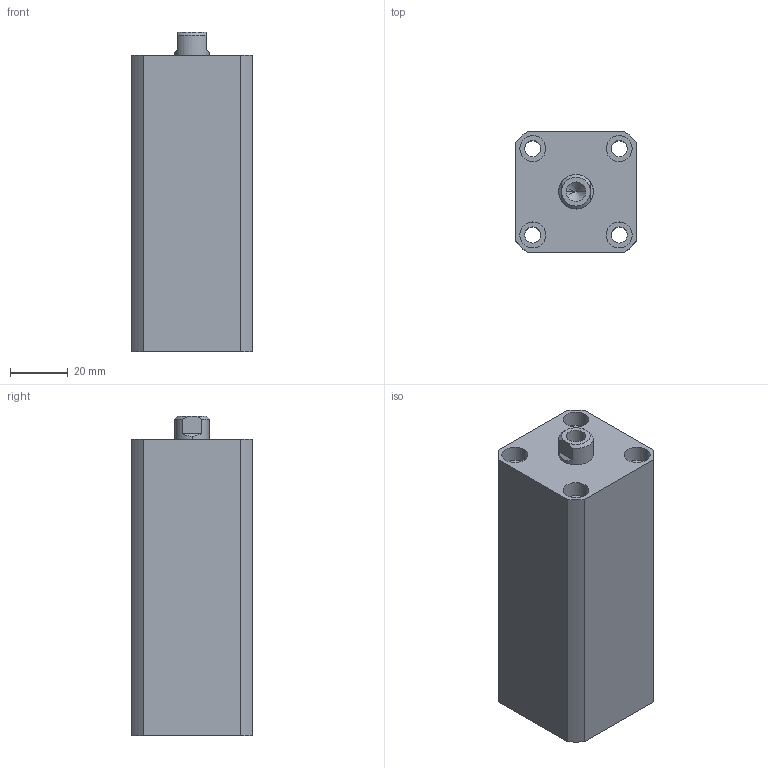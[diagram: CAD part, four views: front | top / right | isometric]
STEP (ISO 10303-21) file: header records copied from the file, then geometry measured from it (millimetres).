
FILE_DESCRIPTION (( 'STEP AP203' ), '1' );
FILE_NAME ('HTB-SDMB20-60N.STEP', '2019-10-08T11:58:31', ( '微软用户' ), ( '微软中国' ), 'SwSTEP 2.0', 'SolidWorks 2012', '' );
FILE_SCHEMA (( 'CONFIG_CONTROL_DESIGN' ));
Length unit declared in the file: millimetre
Products named in the file (3): HTB-SDMB20-60掛极; HTB-SDMB20-60N活塞杆; HTB-SDMB20-60N
Assembly tree (2 placements, depth 2):
  HTB-SDMB20-60N
    HTB-SDMB20-60掛极
    HTB-SDMB20-60N活塞杆
Bounding box: 42 x 42 x 111 mm (x, y, z)
Volume: 154682 mm3; surface area: 38537.1 mm2
Topology: 2 solids, 2 shells, 136 faces, 326 edges, 213 vertices
Faces by surface type: plane 64, cylinder 46, bspline 16, torus 6, cone 4
Entity records: 5023 total; most frequent: CARTESIAN_POINT 1570, ORIENTED_EDGE 648, DIRECTION 640, EDGE_CURVE 324, AXIS2_PLACEMENT_3D 231, VERTEX_POINT 213, VECTOR 178, LINE 178
